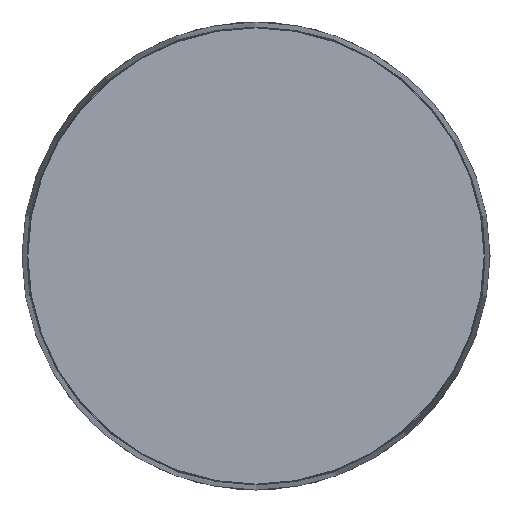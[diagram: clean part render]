
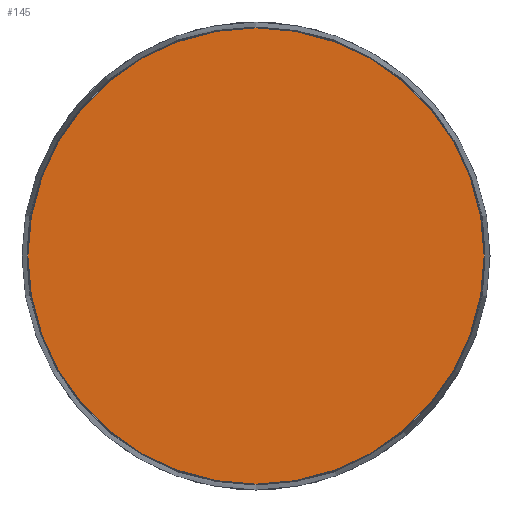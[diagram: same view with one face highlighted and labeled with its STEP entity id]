
A CAD part, front view. The second image highlights one B-rep face of the part: STEP entity #145.
In plain terms, the highlighted planar face has unit normal (0, -1, 0).
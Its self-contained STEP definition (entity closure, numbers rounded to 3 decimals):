
#102=CARTESIAN_POINT('',(0.,-182.,0.));
#103=DIRECTION('',(0.,-1.,0.));
#104=DIRECTION('',(0.,0.,-1.));
#105=AXIS2_PLACEMENT_3D('',#102,#103,#104);
#121=CARTESIAN_POINT('',(0.,-182.,0.));
#122=DIRECTION('',(0.,1.,0.));
#123=DIRECTION('',(0.,0.,-1.));
#124=AXIS2_PLACEMENT_3D('',#121,#122,#123);
#126=CARTESIAN_POINT('',(0.,-182.,-29.248));
#128=VERTEX_POINT('',#126);
#130=CARTESIAN_POINT('',(0.,-182.,29.248));
#132=VERTEX_POINT('',#130);
#134=CARTESIAN_POINT('',(0.,-182.,0.));
#135=DIRECTION('',(0.,1.,0.));
#136=DIRECTION('',(0.,0.,-1.));
#137=AXIS2_PLACEMENT_3D('',#134,#135,#136);
#138=PLANE('',#137);
#140=ORIENTED_EDGE('',*,*,#139,.F.);
#142=ORIENTED_EDGE('',*,*,#141,.T.);
#143=EDGE_LOOP('',(#140,#142));
#144=FACE_OUTER_BOUND('',#143,.F.);
#145=ADVANCED_FACE('',(#144),#138,.F.);
#106=CIRCLE('',#105,29.248);
#125=CIRCLE('',#124,29.248);
#139=EDGE_CURVE('',#128,#132,#106,.T.);
#141=EDGE_CURVE('',#128,#132,#125,.T.);
